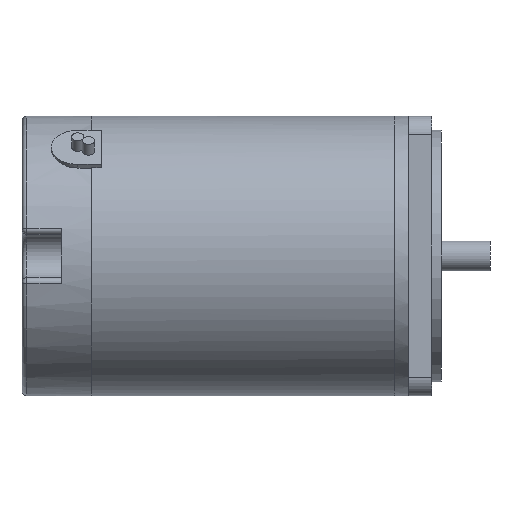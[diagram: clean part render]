
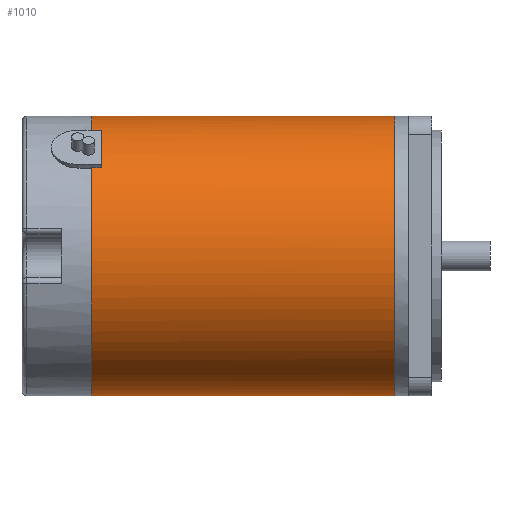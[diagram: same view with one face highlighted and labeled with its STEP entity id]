
A CAD part, left-side view. The second image highlights one B-rep face of the part: STEP entity #1010.
In plain terms, the highlighted cylindrical face has radius 30.05 mm (diameter 60.1 mm), a full revolution.
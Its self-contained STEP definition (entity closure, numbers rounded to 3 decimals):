
#903=CARTESIAN_POINT('',(-23.332,70.5,18.938));
#904=VERTEX_POINT('',#903);
#911=CARTESIAN_POINT('',(-23.332,68.5,18.938));
#912=VERTEX_POINT('',#911);
#913=CARTESIAN_POINT('',(-23.332,68.5,18.938));
#914=DIRECTION('',(0.0,1.0,0.0));
#915=VECTOR('',#914,2.0);
#916=LINE('',#913,#915);
#917=EDGE_CURVE('',#912,#904,#916,.T.);
#936=CARTESIAN_POINT('',(-14.599,70.5,26.266));
#937=VERTEX_POINT('',#936);
#947=CARTESIAN_POINT('',(-14.599,68.5,26.266));
#948=VERTEX_POINT('',#947);
#955=CARTESIAN_POINT('',(-14.599,70.5,26.266));
#956=DIRECTION('',(0.0,-1.0,0.0));
#957=VECTOR('',#956,2.0);
#958=LINE('',#955,#957);
#959=EDGE_CURVE('',#937,#948,#958,.T.);
#969=CARTESIAN_POINT('',(0.0,68.5,0.0));
#970=DIRECTION('',(0.0,-1.0,0.0));
#971=DIRECTION('',(-1.0,0.0,0.0));
#972=AXIS2_PLACEMENT_3D('',#969,#970,#971);
#973=CIRCLE('',#972,30.05);
#974=EDGE_CURVE('',#948,#912,#973,.T.);
#982=CARTESIAN_POINT('',(0.0,5.5,0.0));
#983=DIRECTION('',(0.0,1.0,0.0));
#984=DIRECTION('',(-1.0,0.0,0.0));
#985=AXIS2_PLACEMENT_3D('',#982,#983,#984);
#986=CYLINDRICAL_SURFACE('',#985,30.05);
#987=CARTESIAN_POINT('',(30.05,5.5,0.));
#988=VERTEX_POINT('',#987);
#989=CARTESIAN_POINT('',(0.0,5.5,0.0));
#990=DIRECTION('',(0.0,-1.0,0.0));
#991=DIRECTION('',(-1.0,0.0,0.0));
#992=AXIS2_PLACEMENT_3D('',#989,#990,#991);
#993=CIRCLE('',#992,30.05);
#994=EDGE_CURVE('',#988,#988,#993,.T.);
#995=ORIENTED_EDGE('',*,*,#994,.F.);
#996=EDGE_LOOP('',(#995));
#997=FACE_OUTER_BOUND('',#996,.T.);
#998=ORIENTED_EDGE('',*,*,#959,.T.);
#999=ORIENTED_EDGE('',*,*,#974,.T.);
#1000=ORIENTED_EDGE('',*,*,#917,.T.);
#1001=CARTESIAN_POINT('',(0.0,70.5,0.0));
#1002=DIRECTION('',(0.0,-1.0,0.0));
#1003=DIRECTION('',(-1.0,0.0,0.0));
#1004=AXIS2_PLACEMENT_3D('',#1001,#1002,#1003);
#1005=CIRCLE('',#1004,30.05);
#1006=EDGE_CURVE('',#904,#937,#1005,.T.);
#1007=ORIENTED_EDGE('',*,*,#1006,.T.);
#1008=EDGE_LOOP('',(#998,#999,#1000,#1007));
#1009=FACE_BOUND('',#1008,.T.);
#1010=ADVANCED_FACE('',(#997,#1009),#986,.T.);
